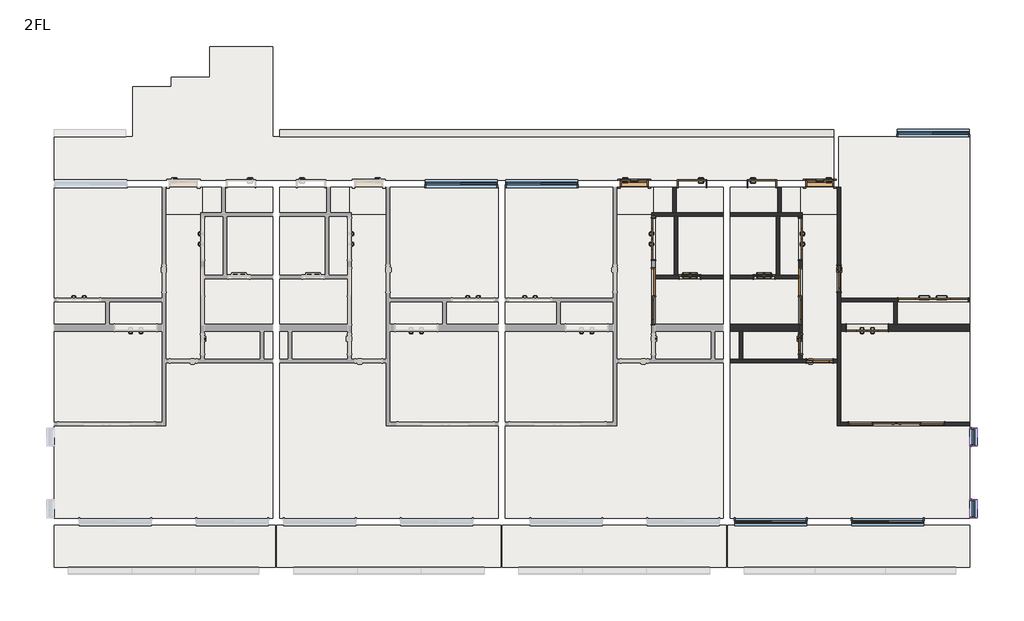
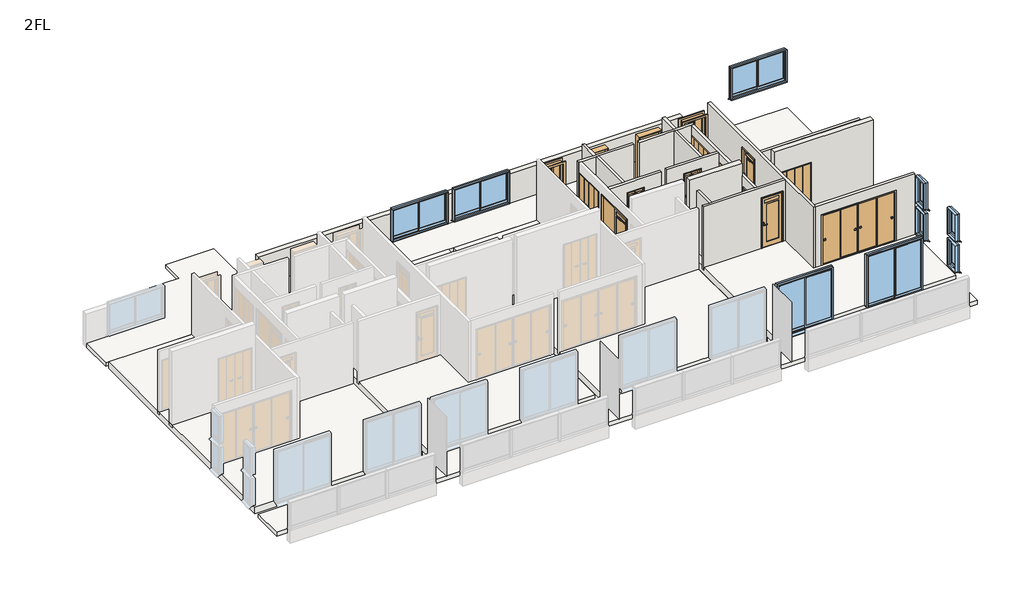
# One storey, part 3 of 3: 18 walls, 16 doors, 14 slabs, 9 windows.
"""IFC4 building model written with IfcOpenShell, lengths in millimetres."""

from ifc_helpers import new_model, si_unit, frame, origin, place, context, project, spatial, polyline, outline, extrude, faceted_brep, transform, mapped, element, save
from components import door_800x2000_a7d1584b, door_800x2000_010bfebf, w1200h2000_6a144d60, w1200h2000_99d19fb3, w1200h2000_ebe1d490, w1600h2000_4c3c234a, w1600h2000_ca690e72, w2000h2000_5dbb6d6a, w2800h2000_04aa64cd, w600h2000_6a266bef, w600h2000_94bb9c3c, w600h2000_8ea70a65, w800h2000_1d97c4d4, w800h2000_13e9f519, w800h2000_ccb03061, w800h2000_0ab7d42c, window_2000x1200_fc91d1cf, window_2000x2000_f1ff98da, window_450x1000_1cddc73c

model = new_model("IFC4")

# Units and contexts
model_context = context("Model", 3, world=origin())
ifc_project = project(units=[si_unit("LENGTHUNIT", "METRE", prefix="MILLI")], contexts=[model_context])

# Site, building, storey
site = spatial("IfcSite", under=ifc_project)
building = spatial("IfcBuilding", under=site)
storey = spatial("IfcBuildingStorey", under=building, Name="2FL", Elevation=4000.0)

# Doors
placement = place(None, origin())
door_800x2000_shape = door_800x2000_a7d1584b(model_context)
element("IfcDoor", 1, ObjectType="片開き3 : 800x2000", at=placement, inside=storey, context=model_context, shape_type="MappedRepresentation", body=[
    mapped(door_800x2000_shape, transform((5521.2812754, -5700.1171638, 4000.0), x_axis=(1.0, 0.0, 0.0), y_axis=(0.0, 1.0, 0.0), z_axis=(0.0, 0.0, 1.0))),
])
door_800x2000_2_shape = door_800x2000_010bfebf(model_context)
element("IfcDoor", 2, ObjectType="片開き3 : 800x2000", at=placement, inside=storey, context=model_context, shape_type="MappedRepresentation", body=[
    mapped(door_800x2000_2_shape, transform((10821.2812754, -5700.1171638, 4000.0), x_axis=(-1.0, 0.0, 0.0), y_axis=(0.0, -1.0, 0.0), z_axis=(0.0, 0.0, 1.0))),
])
w1200h2000_shape = w1200h2000_6a144d60(model_context)
element("IfcDoor", 3, ObjectType="木製折戸 : w1200h2000", at=placement, inside=storey, context=model_context, shape_type="MappedRepresentation", body=[
    mapped(w1200h2000_shape, transform((6071.2812754, -7280.1171638, 4100.0), x_axis=(0.0, 1.0, 0.0), y_axis=(-1.0, 0.0, 0.0), z_axis=(0.0, 0.0, 1.0))),
])
w1200h2000_2_shape = w1200h2000_99d19fb3(model_context)
element("IfcDoor", 4, ObjectType="木製折戸 : w1200h2000", at=placement, inside=storey, context=model_context, shape_type="MappedRepresentation", body=[
    mapped(w1200h2000_2_shape, transform((10271.2812754, -7280.1171638, 4100.0), x_axis=(0.0, 1.0, 0.0), y_axis=(-1.0, 0.0, 0.0), z_axis=(0.0, 0.0, 1.0))),
])
w1200h2000_3_shape = w1200h2000_ebe1d490(model_context)
element("IfcDoor", 5, ObjectType="木製折戸 : w1200h2000", at=placement, inside=storey, context=model_context, shape_type="MappedRepresentation", body=[
    mapped(w1200h2000_3_shape, transform((12183.7812754, -9820.1171638, 4100.0), x_axis=(1.0, 0.0, 0.0), y_axis=(0.0, 1.0, 0.0), z_axis=(0.0, 0.0, 1.0))),
])
w1600h2000_shape = w1600h2000_4c3c234a(model_context)
element("IfcDoor", 6, ObjectType="片引戸CL2017 : w1600h2000", at=placement, inside=storey, context=model_context, shape_type="MappedRepresentation", body=[
    mapped(w1600h2000_shape, transform((6071.2812754, -8920.1171638, 4100.0), x_axis=(0.0, -1.0, 0.0), y_axis=(1.0, 0.0, 0.0), z_axis=(0.0, 0.0, 1.0))),
])
w1600h2000_2_shape = w1600h2000_ca690e72(model_context)
element("IfcDoor", 7, ObjectType="片引戸CL2017 : w1600h2000", at=placement, inside=storey, context=model_context, shape_type="MappedRepresentation", body=[
    mapped(w1600h2000_2_shape, transform((10271.2812754, -8920.1171638, 4100.0), x_axis=(0.0, -1.0, 0.0), y_axis=(1.0, 0.0, 0.0), z_axis=(0.0, 0.0, 1.0))),
])
w2000h2000_shape = w2000h2000_5dbb6d6a(model_context)
element("IfcDoor", 8, ObjectType="木製折戸 : w2000h2000", at=placement, inside=storey, context=model_context, shape_type="MappedRepresentation", body=[
    mapped(w2000h2000_shape, transform((14066.2812754, -9020.1171638, 4100.0), x_axis=(-1.0, 0.0, 0.0), y_axis=(0.0, -1.0, 0.0), z_axis=(0.0, 0.0, 1.0))),
])
w2800h2000_shape = w2800h2000_04aa64cd(model_context)
element("IfcDoor", 9, ObjectType="引違い 4 枚 2 溝_襖 : w2800h2000", at=placement, inside=storey, context=model_context, shape_type="MappedRepresentation", body=[
    mapped(w2800h2000_shape, transform((13026.8167793, -12570.1171638, 4100.0), x_axis=(1.0, 0.0, 0.0), y_axis=(0.0, 1.0, 0.0), z_axis=(0.0, 0.0, 1.0))),
])
w600h2000_shape = w600h2000_6a266bef(model_context)
element("IfcDoor", 10, ObjectType="浴室折戸 : w600h2000", at=placement, inside=storey, context=model_context, shape_type="MappedRepresentation", body=[
    mapped(w600h2000_shape, transform((7111.2812754, -8370.1171638, 4100.0), x_axis=(1.0, 0.0, 0.0), y_axis=(0.0, 1.0, 0.0), z_axis=(0.0, 0.0, 1.0))),
])
w600h2000_2_shape = w600h2000_94bb9c3c(model_context)
element("IfcDoor", 11, ObjectType="浴室折戸 : w600h2000", at=placement, inside=storey, context=model_context, shape_type="MappedRepresentation", body=[
    mapped(w600h2000_2_shape, transform((9231.2812754, -8370.1171638, 4100.0), x_axis=(-1.0, 0.0, 0.0), y_axis=(0.0, -1.0, 0.0), z_axis=(0.0, 0.0, 1.0))),
])
w600h2000_3_shape = w600h2000_8ea70a65(model_context)
element("IfcDoor", 12, ObjectType="片開戸CL2058 : w600h2000", at=placement, inside=storey, context=model_context, shape_type="MappedRepresentation", body=[
    mapped(w600h2000_3_shape, transform((10271.2812754, -10295.1171638, 4100.0), x_axis=(0.0, -1.0, 0.0), y_axis=(1.0, 0.0, 0.0), z_axis=(0.0, 0.0, 1.0))),
])
w800h2000_shape = w800h2000_1d97c4d4(model_context)
element("IfcDoor", 13, ObjectType="片開 : w800h2000", at=placement, inside=storey, context=model_context, shape_type="MappedRepresentation", body=[
    mapped(w800h2000_shape, transform((7171.2812754, -5700.1171638, 4000.0), x_axis=(-1.0, 0.0, 0.0), y_axis=(0.0, -1.0, 0.0), z_axis=(0.0, 0.0, 1.0))),
])
w800h2000_2_shape = w800h2000_13e9f519(model_context)
element("IfcDoor", 14, ObjectType="片開戸CL2058 : w800h2000", at=placement, inside=storey, context=model_context, shape_type="MappedRepresentation", body=[
    mapped(w800h2000_2_shape, transform((10821.2812754, -10770.1171638, 4100.0), x_axis=(1.0, 0.0, 0.0), y_axis=(0.0, 1.0, 0.0), z_axis=(0.0, 0.0, 1.0))),
])
w800h2000_3_shape = w800h2000_ccb03061(model_context)
element("IfcDoor", 15, ObjectType="片開戸CL2058 : w800h2000", at=placement, inside=storey, context=model_context, shape_type="MappedRepresentation", body=[
    mapped(w800h2000_3_shape, transform((11371.2812754, -8420.1171638, 4100.0), x_axis=(0.0, -1.0, 0.0), y_axis=(1.0, 0.0, 0.0), z_axis=(0.0, 0.0, 1.0))),
])
w800h2000_4_shape = w800h2000_0ab7d42c(model_context)
element("IfcDoor", 16, ObjectType="片開 : w800h2000", at=placement, inside=storey, context=model_context, shape_type="MappedRepresentation", body=[
    mapped(w800h2000_4_shape, transform((9171.2812754, -5700.1171638, 4000.0), x_axis=(1.0, 0.0, 0.0), y_axis=(0.0, 1.0, 0.0), z_axis=(0.0, 0.0, 1.0))),
])

# Slabs
element("IfcSlab", 17, ObjectType="RC150＋100", at=placement, inside=storey, context=model_context, shape_type="SweptSolid", body=[
    extrude(outline(polyline([(-4828.7187246, -15270.1171638), (-11078.7187246, -15270.1171638), (-11078.7187246, -5800.1171638), (-7928.7187246, -5800.1171638), (-7928.7187246, -6580.1171638), (-6828.7187246, -6580.1171638), (-6828.7187246, -5800.1171638), (-4828.7187246, -5800.1171638), (-4828.7187246, -6580.1171638), (-6188.7187246, -6580.1171638), (-6188.7187246, -8370.1171638), (-4828.7187246, -8370.1171638), (-4828.7187246, -15270.1171638)])), frame((0.0, 0.0, 3850.0), z_axis=(0.0, 0.0, 1.0), x_axis=(1.0, 0.0, 0.0)), (0.0, 0.0, 1.0), 250.0),
])
element("IfcSlab", 18, ObjectType="RC150＋100", at=placement, inside=storey, context=model_context, shape_type="SweptSolid", body=[
    extrude(outline(polyline([(-4628.7187246, -15270.1171638), (-4628.7187246, -8370.1171638), (-3268.7187246, -8370.1171638), (-3268.7187246, -6580.1171638), (-4628.7187246, -6580.1171638), (-4628.7187246, -5800.1171638), (-2628.7187246, -5800.1171638), (-2628.7187246, -6580.1171638), (-1528.7187246, -6580.1171638), (-1528.7187246, -5800.1171638), (1621.2812754, -5800.1171638), (1621.2812754, -15270.1171638), (-4628.7187246, -15270.1171638)])), frame((0.0, 0.0, 3850.0), z_axis=(0.0, 0.0, 1.0), x_axis=(1.0, 0.0, 0.0)), (0.0, 0.0, 1.0), 250.0),
])
element("IfcSlab", 19, ObjectType="RC150＋100", at=placement, inside=storey, context=model_context, shape_type="SweptSolid", body=[
    extrude(outline(polyline([(8071.2812754, -15270.1171638), (1821.2812754, -15270.1171638), (1821.2812754, -5800.1171638), (4971.2812754, -5800.1171638), (4971.2812754, -6580.1171638), (6071.2812754, -6580.1171638), (6071.2812754, -5800.1171638), (8071.2812754, -5800.1171638), (8071.2812754, -6580.1171638), (6711.2812754, -6580.1171638), (6711.2812754, -8370.1171638), (8071.2812754, -8370.1171638), (8071.2812754, -15270.1171638)])), frame((0.0, 0.0, 3850.0), z_axis=(0.0, 0.0, 1.0), x_axis=(1.0, 0.0, 0.0)), (0.0, 0.0, 1.0), 250.0),
])
element("IfcSlab", 20, ObjectType="RC150＋100", at=placement, inside=storey, context=model_context, shape_type="SweptSolid", body=[
    extrude(outline(polyline([(8271.2812754, -15270.1171638), (8271.2812754, -8370.1171638), (9631.2812754, -8370.1171638), (9631.2812754, -6580.1171638), (8271.2812754, -6580.1171638), (8271.2812754, -5800.1171638), (10271.2812754, -5800.1171638), (10271.2812754, -6580.1171638), (11371.2812754, -6580.1171638), (11371.2812754, -4350.1171638), (15121.2812754, -4350.1171638), (15121.2812754, -15270.1171638), (8271.2812754, -15270.1171638)])), frame((0.0, 0.0, 3850.0), z_axis=(0.0, 0.0, 1.0), x_axis=(1.0, 0.0, 0.0)), (0.0, 0.0, 1.0), 250.0),
])
element("IfcSlab", 21, ObjectType="RC150", at=placement, inside=storey, context=model_context, shape_type="SweptSolid", body=[
    extrude(outline(polyline([(-4828.7187246, -8370.1171638), (-6188.7187246, -8370.1171638), (-6188.7187246, -6580.1171638), (-4828.7187246, -6580.1171638), (-4828.7187246, -8370.1171638)])), frame((0.0, 0.0, 3850.0), z_axis=(0.0, 0.0, 1.0), x_axis=(1.0, 0.0, 0.0)), (0.0, 0.0, 1.0), 150.0),
])
element("IfcSlab", 22, ObjectType="RC150", at=placement, inside=storey, context=model_context, shape_type="SweptSolid", body=[
    extrude(outline(polyline([(-6828.7187246, -6580.1171638), (-7928.7187246, -6580.1171638), (-7928.7187246, -5800.1171638), (-6828.7187246, -5800.1171638), (-6828.7187246, -6580.1171638)])), frame((0.0, 0.0, 3800.0), z_axis=(0.0, 0.0, 1.0), x_axis=(1.0, 0.0, 0.0)), (0.0, 0.0, 1.0), 150.0),
])
element("IfcSlab", 23, ObjectType="RC150", at=placement, inside=storey, context=model_context, shape_type="SweptSolid", body=[
    extrude(outline(polyline([(-4628.7187246, -8370.1171638), (-4628.7187246, -6580.1171638), (-3268.7187246, -6580.1171638), (-3268.7187246, -8370.1171638), (-4628.7187246, -8370.1171638)])), frame((0.0, 0.0, 3850.0), z_axis=(0.0, 0.0, 1.0), x_axis=(1.0, 0.0, 0.0)), (0.0, 0.0, 1.0), 150.0),
])
element("IfcSlab", 24, ObjectType="RC150", at=placement, inside=storey, context=model_context, shape_type="SweptSolid", body=[
    extrude(outline(polyline([(-2628.7187246, -6580.1171638), (-2628.7187246, -5800.1171638), (-1528.7187246, -5800.1171638), (-1528.7187246, -6580.1171638), (-2628.7187246, -6580.1171638)])), frame((0.0, 0.0, 3800.0), z_axis=(0.0, 0.0, 1.0), x_axis=(1.0, 0.0, 0.0)), (0.0, 0.0, 1.0), 150.0),
])
element("IfcSlab", 25, ObjectType="RC150", at=placement, inside=storey, context=model_context, shape_type="SweptSolid", body=[
    extrude(outline(polyline([(8071.2812754, -8370.1171638), (6711.2812754, -8370.1171638), (6711.2812754, -6580.1171638), (8071.2812754, -6580.1171638), (8071.2812754, -8370.1171638)])), frame((0.0, 0.0, 3850.0), z_axis=(0.0, 0.0, 1.0), x_axis=(1.0, 0.0, 0.0)), (0.0, 0.0, 1.0), 150.0),
])
element("IfcSlab", 26, ObjectType="RC150", at=placement, inside=storey, context=model_context, shape_type="SweptSolid", body=[
    extrude(outline(polyline([(6071.2812754, -6580.1171638), (4971.2812754, -6580.1171638), (4971.2812754, -5800.1171638), (6071.2812754, -5800.1171638), (6071.2812754, -6580.1171638)])), frame((0.0, 0.0, 3800.0), z_axis=(0.0, 0.0, 1.0), x_axis=(1.0, 0.0, 0.0)), (0.0, 0.0, 1.0), 150.0),
])
element("IfcSlab", 27, ObjectType="RC150", at=placement, inside=storey, context=model_context, shape_type="SweptSolid", body=[
    extrude(outline(polyline([(8271.2812754, -8370.1171638), (8271.2812754, -6580.1171638), (9631.2812754, -6580.1171638), (9631.2812754, -8370.1171638), (8271.2812754, -8370.1171638)])), frame((0.0, 0.0, 3850.0), z_axis=(0.0, 0.0, 1.0), x_axis=(1.0, 0.0, 0.0)), (0.0, 0.0, 1.0), 150.0),
])
element("IfcSlab", 28, ObjectType="RC150", at=placement, inside=storey, context=model_context, shape_type="SweptSolid", body=[
    extrude(outline(polyline([(10271.2812754, -6580.1171638), (10271.2812754, -5800.1171638), (11371.2812754, -5800.1171638), (11371.2812754, -6580.1171638), (10271.2812754, -6580.1171638)])), frame((0.0, 0.0, 3800.0), z_axis=(0.0, 0.0, 1.0), x_axis=(1.0, 0.0, 0.0)), (0.0, 0.0, 1.0), 150.0),
])
element("IfcSlab", 29, ObjectType="RC150", at=placement, inside=storey, context=model_context, shape_type="SweptSolid", body=[
    extrude(outline(polyline([(-8828.7187246, -4350.1171638), (-8828.7187246, -2920.1171638), (-7728.7187246, -2920.1171638), (-7728.7187246, -2660.1171638), (-6628.7187246, -2660.1171638), (-6628.7187246, -1775.1171638), (-4828.7187246, -1775.1171638), (-4828.7187246, -4350.1171638), (11221.2812754, -4350.1171638), (11221.2812754, -5600.1171638), (-11078.7187246, -5600.1171638), (-11078.7187246, -4350.1171638), (-8828.7187246, -4350.1171638)])), frame((0.0, 0.0, 3800.0), z_axis=(0.0, 0.0, 1.0), x_axis=(1.0, 0.0, 0.0)), (0.0, 0.0, 1.0), 150.0),
])
element("IfcSlab", 30, ObjectType="RC150", at=placement, inside=storey, context=model_context, shape_type="SweptSolid", body=[
    extrude(outline(polyline([(15121.2812754, -15470.1171638), (15121.2812754, -16670.1171638), (-11078.7187246, -16670.1171638), (-11078.7187246, -15470.1171638), (15121.2812754, -15470.1171638)])), frame((0.0, 0.0, 3800.0), z_axis=(0.0, 0.0, 1.0), x_axis=(1.0, 0.0, 0.0)), (0.0, 0.0, 1.0), 150.0),
])

# Walls
element("IfcWall", 31, ObjectType="(R)RC200", at=placement, inside=storey, context=model_context, shape_type="Brep", body=[
    faceted_brep([(15121.2812754, -9720.1171638, 4000.0), (13046.2812754, -9720.1171638, 4000.0), (12946.2812754, -9720.1171638, 4000.0), (11421.2812754, -9720.1171638, 4000.0), (11421.2812754, -9720.1171638, 7000.0), (15121.2812754, -9720.1171638, 7000.0), (12803.7812754, -9720.1171638, 6120.0), (11563.7812754, -9720.1171638, 6120.0), (11563.7812754, -9720.1171638, 4100.0), (12803.7812754, -9720.1171638, 4100.0), (15121.2812754, -9920.1171638, 4000.0), (15121.2812754, -9920.1171638, 7000.0), (11421.2812754, -9920.1171638, 7000.0), (11421.2812754, -9920.1171638, 4000.0), (12803.7812754, -9920.1171638, 6120.0), (12803.7812754, -9920.1171638, 4100.0), (11563.7812754, -9920.1171638, 4100.0), (11563.7812754, -9920.1171638, 6120.0)], [[[0, 1, 2, 3, 4, 5], [6, 7, 8, 9]], [[10, 11, 12, 13], [14, 15, 16, 17]], [[3, 2, 1, 0, 10, 13]], [[5, 4, 12, 11]], [[4, 3, 13, 12]], [[15, 14, 6, 9]], [[16, 15, 9, 8]], [[17, 16, 8, 7]], [[14, 17, 7, 6]], [[0, 5, 11, 10]]]),
])
element("IfcWall", 32, ObjectType="(R)RC200", at=placement, inside=storey, context=model_context, shape_type="Brep", body=[
    faceted_brep([(10221.2812754, -9720.1171638, 4000.0), (8271.2812754, -9720.1171638, 4000.0), (8271.2812754, -9720.1171638, 7000.0), (10221.2812754, -9720.1171638, 7000.0), (10221.2812754, -9920.1171638, 4000.0), (10221.2812754, -9920.1171638, 7000.0), (8271.2812754, -9920.1171638, 7000.0), (8271.2812754, -9920.1171638, 4000.0), (8521.2812754, -9920.1171638, 4000.0), (8621.2812754, -9920.1171638, 4000.0)], [[[0, 1, 2, 3]], [[4, 5, 6, 7, 8, 9]], [[1, 0, 4, 9, 8, 7]], [[3, 2, 6, 5]], [[0, 3, 5, 4]], [[2, 1, 7, 6]]]),
])
element("IfcWall", 33, ObjectType="(R)RC200", at=placement, inside=storey, context=model_context, shape_type="Brep", body=[
    faceted_brep([(-4628.7187246, -4350.1171638, 5100.0), (-4628.7187246, -4350.1171638, 3800.0), (-1628.7187246, -4350.1171638, 3800.0), (11221.2812754, -4350.1171638, 3800.0), (11221.2812754, -4350.1171638, 5100.0), (-4628.7187246, -4150.1171638, 3800.0), (-4628.7187246, -4150.1171638, 5100.0), (11221.2812754, -4150.1171638, 5100.0), (11221.2812754, -4150.1171638, 3800.0), (-1628.7187246, -4150.1171638, 3800.0)], [[[0, 1, 2, 3, 4]], [[5, 6, 7, 8, 9]], [[3, 2, 1, 5, 9, 8]], [[0, 4, 7, 6]], [[4, 3, 8, 7]], [[0, 6, 5, 1]]]),
])
element("IfcWall", 34, ObjectType="(L1)LGS100", at=placement, inside=storey, context=model_context, shape_type="Brep", body=[
    faceted_brep([(6121.2812754, -8420.1171638, 4000.0), (8071.2812754, -8420.1171638, 4000.0), (8071.2812754, -8420.1171638, 6500.0), (6121.2812754, -8420.1171638, 6500.0), (7431.2812754, -8420.1171638, 6120.0), (7431.2812754, -8420.1171638, 4100.0), (6791.2812754, -8420.1171638, 4100.0), (6791.2812754, -8420.1171638, 6120.0), (6121.2812754, -8320.1171638, 4000.0), (6121.2812754, -8320.1171638, 6500.0), (6661.2812754, -8320.1171638, 6500.0), (6761.2812754, -8320.1171638, 6500.0), (8071.2812754, -8320.1171638, 6500.0), (8071.2812754, -8320.1171638, 4000.0), (6761.2812754, -8320.1171638, 4000.0), (6661.2812754, -8320.1171638, 4000.0), (7431.2812754, -8320.1171638, 6120.0), (6791.2812754, -8320.1171638, 6120.0), (6791.2812754, -8320.1171638, 4100.0), (7431.2812754, -8320.1171638, 4100.0)], [[[0, 1, 2, 3], [4, 5, 6, 7]], [[8, 9, 10, 11, 12, 13, 14, 15], [16, 17, 18, 19]], [[1, 0, 8, 15, 14, 13]], [[3, 2, 12, 11, 10, 9]], [[0, 3, 9, 8]], [[5, 4, 16, 19]], [[6, 5, 19, 18]], [[7, 6, 18, 17]], [[4, 7, 17, 16]], [[2, 1, 13, 12]]]),
])
element("IfcWall", 35, ObjectType="(L1)LGS100", at=placement, inside=storey, context=model_context, shape_type="Brep", body=[
    faceted_brep([(6021.2812754, -6630.1171638, 4000.0), (6121.2812754, -6630.1171638, 4000.0), (6661.2812754, -6630.1171638, 4000.0), (6761.2812754, -6630.1171638, 4000.0), (8071.2812754, -6630.1171638, 4000.0), (8071.2812754, -6630.1171638, 6500.0), (6761.2812754, -6630.1171638, 6500.0), (6661.2812754, -6630.1171638, 6500.0), (6121.2812754, -6630.1171638, 6500.0), (6021.2812754, -6630.1171638, 6500.0), (6021.2812754, -6530.1171638, 4000.0), (6021.2812754, -6530.1171638, 6500.0), (6621.2812754, -6530.1171638, 6500.0), (6721.2812754, -6530.1171638, 6500.0), (8071.2812754, -6530.1171638, 6500.0), (8071.2812754, -6530.1171638, 4000.0), (6721.2812754, -6530.1171638, 4000.0), (6621.2812754, -6530.1171638, 4000.0)], [[[0, 1, 2, 3, 4, 5, 6, 7, 8, 9]], [[10, 11, 12, 13, 14, 15, 16, 17]], [[4, 3, 2, 1, 0, 10, 17, 16, 15]], [[9, 8, 7, 6, 5, 14, 13, 12, 11]], [[0, 9, 11, 10]], [[5, 4, 15, 14]]]),
])
element("IfcWall", 36, ObjectType="(L1)LGS100", at=placement, inside=storey, context=model_context, shape_type="SweptSolid", body=[
    extrude(outline(polyline([(6721.2812754, -5800.1171638), (6721.2812754, -6530.1171638), (6621.2812754, -6530.1171638), (6621.2812754, -5800.1171638), (6721.2812754, -5800.1171638)])), frame((0.0, 0.0, 4000.0), z_axis=(0.0, 0.0, 1.0), x_axis=(1.0, 0.0, 0.0)), (0.0, 0.0, 1.0), 2500.0),
])
element("IfcWall", 37, ObjectType="(L1)LGS100", at=placement, inside=storey, context=model_context, shape_type="SweptSolid", body=[
    extrude(outline(polyline([(6761.2812754, -6630.1171638), (6761.2812754, -8320.1171638), (6661.2812754, -8320.1171638), (6661.2812754, -6630.1171638), (6761.2812754, -6630.1171638)])), frame((0.0, 0.0, 4000.0), z_axis=(0.0, 0.0, 1.0), x_axis=(1.0, 0.0, 0.0)), (0.0, 0.0, 1.0), 2500.0),
])
element("IfcWall", 38, ObjectType="(L1)LGS100", at=placement, inside=storey, context=model_context, shape_type="Brep", body=[
    faceted_brep([(15121.2812754, -8970.1171638, 4000.0), (11421.2812754, -8970.1171638, 4000.0), (11421.2812754, -8970.1171638, 6500.0), (15121.2812754, -8970.1171638, 6500.0), (13046.2812754, -8970.1171638, 6120.0), (13046.2812754, -8970.1171638, 4100.0), (15086.2812754, -8970.1171638, 4100.0), (15086.2812754, -8970.1171638, 6120.0), (11421.2812754, -9070.1171638, 4000.0), (12946.2812754, -9070.1171638, 4000.0), (13046.2812754, -9070.1171638, 4000.0), (15121.2812754, -9070.1171638, 4000.0), (15121.2812754, -9070.1171638, 6500.0), (13046.2812754, -9070.1171638, 6500.0), (12946.2812754, -9070.1171638, 6500.0), (11421.2812754, -9070.1171638, 6500.0), (13046.2812754, -9070.1171638, 4100.0), (13046.2812754, -9070.1171638, 6120.0), (15086.2812754, -9070.1171638, 6120.0), (15086.2812754, -9070.1171638, 4100.0)], [[[0, 1, 2, 3], [4, 5, 6, 7]], [[8, 9, 10, 11, 12, 13, 14, 15], [16, 17, 18, 19]], [[1, 0, 11, 10, 9, 8]], [[3, 2, 15, 14, 13, 12]], [[2, 1, 8, 15]], [[4, 17, 16, 5]], [[5, 16, 19, 6]], [[17, 4, 7, 18]], [[18, 7, 6, 19]], [[0, 3, 12, 11]]]),
])
element("IfcWall", 39, ObjectType="(L1)LGS100", at=placement, inside=storey, context=model_context, shape_type="Brep", body=[
    faceted_brep([(13046.2812754, -9720.1171638, 4000.0), (13046.2812754, -9070.1171638, 4000.0), (13046.2812754, -9070.1171638, 4100.0), (13046.2812754, -9070.1171638, 6120.0), (13046.2812754, -9070.1171638, 6500.0), (13046.2812754, -9720.1171638, 6500.0), (12946.2812754, -9720.1171638, 4000.0), (12946.2812754, -9720.1171638, 6500.0), (12946.2812754, -9070.1171638, 6500.0), (12946.2812754, -9070.1171638, 4000.0)], [[[0, 1, 2, 3, 4, 5]], [[6, 7, 8, 9]], [[1, 0, 6, 9]], [[5, 4, 8, 7]], [[0, 5, 7, 6]], [[4, 3, 2, 1, 9, 8]]]),
])
element("IfcWall", 40, ObjectType="(L1)LGS100", at=placement, inside=storey, context=model_context, shape_type="Brep", body=[
    faceted_brep([(11421.2812754, -12620.1171638, 4000.0), (11421.2812754, -12520.1171638, 4000.0), (11421.2812754, -9920.1171638, 4000.0), (11421.2812754, -9720.1171638, 4000.0), (11421.2812754, -9070.1171638, 4000.0), (11421.2812754, -8970.1171638, 4000.0), (11421.2812754, -5800.1171638, 4000.0), (11421.2812754, -5800.1171638, 6500.0), (11421.2812754, -8970.1171638, 6500.0), (11421.2812754, -9070.1171638, 6500.0), (11421.2812754, -12520.1171638, 6500.0), (11421.2812754, -12620.1171638, 6500.0), (11421.2812754, -8820.1171638, 4100.0), (11421.2812754, -8820.1171638, 6100.0), (11421.2812754, -8020.1171638, 6100.0), (11421.2812754, -8020.1171638, 4100.0), (11321.2812754, -12620.1171638, 4000.0), (11321.2812754, -12620.1171638, 6500.0), (11321.2812754, -10820.1171638, 6500.0), (11321.2812754, -10720.1171638, 6500.0), (11321.2812754, -5800.1171638, 6500.0), (11321.2812754, -5800.1171638, 4000.0), (11321.2812754, -10720.1171638, 4000.0), (11321.2812754, -10820.1171638, 4000.0), (11321.2812754, -8820.1171638, 4100.0), (11321.2812754, -8020.1171638, 4100.0), (11321.2812754, -8020.1171638, 6100.0), (11321.2812754, -8820.1171638, 6100.0)], [[[0, 1, 2, 3, 4, 5, 6, 7, 8, 9, 10, 11], [12, 13, 14, 15]], [[16, 17, 18, 19, 20, 21, 22, 23], [24, 25, 26, 27]], [[6, 5, 4, 3, 2, 1, 0, 16, 23, 22, 21]], [[11, 10, 9, 8, 7, 20, 19, 18, 17]], [[0, 11, 17, 16]], [[13, 12, 24, 27]], [[14, 13, 27, 26]], [[15, 14, 26, 25]], [[12, 15, 25, 24]], [[7, 6, 21, 20]]]),
])
element("IfcWall", 41, ObjectType="(L1)LGS100", at=placement, inside=storey, context=model_context, shape_type="Brep", body=[
    faceted_brep([(10221.2812754, -8320.1171638, 4000.0), (9681.2812754, -8320.1171638, 4000.0), (9581.2812754, -8320.1171638, 4000.0), (8271.2812754, -8320.1171638, 4000.0), (8271.2812754, -8320.1171638, 6500.0), (9581.2812754, -8320.1171638, 6500.0), (9681.2812754, -8320.1171638, 6500.0), (10221.2812754, -8320.1171638, 6500.0), (8911.2812754, -8320.1171638, 6120.0), (8911.2812754, -8320.1171638, 4100.0), (9551.2812754, -8320.1171638, 4100.0), (9551.2812754, -8320.1171638, 6120.0), (10221.2812754, -8420.1171638, 4000.0), (10221.2812754, -8420.1171638, 6500.0), (8271.2812754, -8420.1171638, 6500.0), (8271.2812754, -8420.1171638, 4000.0), (8911.2812754, -8420.1171638, 6120.0), (9551.2812754, -8420.1171638, 6120.0), (9551.2812754, -8420.1171638, 4100.0), (8911.2812754, -8420.1171638, 4100.0)], [[[0, 1, 2, 3, 4, 5, 6, 7], [8, 9, 10, 11]], [[12, 13, 14, 15], [16, 17, 18, 19]], [[3, 2, 1, 0, 12, 15]], [[7, 6, 5, 4, 14, 13]], [[0, 7, 13, 12]], [[9, 8, 16, 19]], [[10, 9, 19, 18]], [[11, 10, 18, 17]], [[8, 11, 17, 16]], [[4, 3, 15, 14]]]),
])
element("IfcWall", 42, ObjectType="(L1)LGS100", at=placement, inside=storey, context=model_context, shape_type="Brep", body=[
    faceted_brep([(10321.2812754, -10720.1171638, 4000.0), (10321.2812754, -6630.1171638, 4000.0), (10321.2812754, -6630.1171638, 6500.0), (10321.2812754, -10720.1171638, 6500.0), (10321.2812754, -10595.1171638, 4100.0), (10321.2812754, -10595.1171638, 6100.0), (10321.2812754, -9995.1171638, 6100.0), (10321.2812754, -9995.1171638, 4100.0), (10321.2812754, -6660.1171638, 4100.0), (10321.2812754, -7900.1171638, 4100.0), (10321.2812754, -7900.1171638, 6120.0), (10321.2812754, -6660.1171638, 6120.0), (10321.2812754, -9745.1171638, 4100.0), (10321.2812754, -9745.1171638, 6140.0), (10321.2812754, -8095.1171638, 6140.0), (10321.2812754, -8095.1171638, 4100.0), (10221.2812754, -6630.1171638, 4000.0), (10221.2812754, -8320.1171638, 4000.0), (10221.2812754, -8420.1171638, 4000.0), (10221.2812754, -9720.1171638, 4000.0), (10221.2812754, -9920.1171638, 4000.0), (10221.2812754, -10720.1171638, 4000.0), (10221.2812754, -10720.1171638, 6500.0), (10221.2812754, -8420.1171638, 6500.0), (10221.2812754, -8320.1171638, 6500.0), (10221.2812754, -6630.1171638, 6500.0), (10221.2812754, -10595.1171638, 4100.0), (10221.2812754, -9995.1171638, 4100.0), (10221.2812754, -9995.1171638, 6100.0), (10221.2812754, -10595.1171638, 6100.0), (10221.2812754, -7900.1171638, 4100.0), (10221.2812754, -6660.1171638, 4100.0), (10221.2812754, -6660.1171638, 6120.0), (10221.2812754, -7900.1171638, 6120.0), (10221.2812754, -9745.1171638, 4100.0), (10221.2812754, -8095.1171638, 4100.0), (10221.2812754, -8095.1171638, 6140.0), (10221.2812754, -9745.1171638, 6140.0)], [[[0, 1, 2, 3], [4, 5, 6, 7], [8, 9, 10, 11], [12, 13, 14, 15]], [[16, 17, 18, 19, 20, 21, 22, 23, 24, 25], [26, 27, 28, 29], [30, 31, 32, 33], [34, 35, 36, 37]], [[1, 0, 21, 20, 19, 18, 17, 16]], [[3, 2, 25, 24, 23, 22]], [[0, 3, 22, 21]], [[2, 1, 16, 25]], [[5, 4, 26, 29]], [[6, 5, 29, 28]], [[7, 6, 28, 27]], [[4, 7, 27, 26]], [[8, 31, 30, 9]], [[9, 30, 33, 10]], [[10, 33, 32, 11]], [[13, 12, 34, 37]], [[14, 13, 37, 36]], [[15, 14, 36, 35]], [[12, 15, 35, 34]], [[31, 8, 11, 32]]]),
])
element("IfcWall", 43, ObjectType="(L1)LGS100", at=placement, inside=storey, context=model_context, shape_type="Brep", body=[
    faceted_brep([(10321.2812754, -6530.1171638, 4000.0), (9721.2812754, -6530.1171638, 4000.0), (9621.2812754, -6530.1171638, 4000.0), (8271.2812754, -6530.1171638, 4000.0), (8271.2812754, -6530.1171638, 6500.0), (9621.2812754, -6530.1171638, 6500.0), (9721.2812754, -6530.1171638, 6500.0), (10321.2812754, -6530.1171638, 6500.0), (10321.2812754, -6630.1171638, 4000.0), (10321.2812754, -6630.1171638, 6500.0), (10221.2812754, -6630.1171638, 6500.0), (9681.2812754, -6630.1171638, 6500.0), (9581.2812754, -6630.1171638, 6500.0), (8271.2812754, -6630.1171638, 6500.0), (8271.2812754, -6630.1171638, 4000.0), (9581.2812754, -6630.1171638, 4000.0), (9681.2812754, -6630.1171638, 4000.0), (10221.2812754, -6630.1171638, 4000.0)], [[[0, 1, 2, 3, 4, 5, 6, 7]], [[8, 9, 10, 11, 12, 13, 14, 15, 16, 17]], [[3, 2, 1, 0, 8, 17, 16, 15, 14]], [[7, 6, 5, 4, 13, 12, 11, 10, 9]], [[0, 7, 9, 8]], [[4, 3, 14, 13]]]),
])
element("IfcWall", 44, ObjectType="(L1)LGS100", at=placement, inside=storey, context=model_context, shape_type="SweptSolid", body=[
    extrude(outline(polyline([(9721.2812754, -5800.1171638), (9721.2812754, -6530.1171638), (9621.2812754, -6530.1171638), (9621.2812754, -5800.1171638), (9721.2812754, -5800.1171638)])), frame((0.0, 0.0, 4000.0), z_axis=(0.0, 0.0, 1.0), x_axis=(1.0, 0.0, 0.0)), (0.0, 0.0, 1.0), 2500.0),
])
element("IfcWall", 45, ObjectType="(L1)LGS100", at=placement, inside=storey, context=model_context, shape_type="SweptSolid", body=[
    extrude(outline(polyline([(9681.2812754, -6630.1171638), (9681.2812754, -8320.1171638), (9581.2812754, -8320.1171638), (9581.2812754, -6630.1171638), (9681.2812754, -6630.1171638)])), frame((0.0, 0.0, 4000.0), z_axis=(0.0, 0.0, 1.0), x_axis=(1.0, 0.0, 0.0)), (0.0, 0.0, 1.0), 2500.0),
])
element("IfcWall", 46, ObjectType="(L1)LGS100", at=placement, inside=storey, context=model_context, shape_type="SweptSolid", body=[
    extrude(outline(polyline([(8621.2812754, -9920.1171638), (8621.2812754, -10720.1171638), (8521.2812754, -10720.1171638), (8521.2812754, -9920.1171638), (8621.2812754, -9920.1171638)])), frame((0.0, 0.0, 4000.0), z_axis=(0.0, 0.0, 1.0), x_axis=(1.0, 0.0, 0.0)), (0.0, 0.0, 1.0), 2500.0),
])
element("IfcWall", 47, ObjectType="(L1)LGS100", at=placement, inside=storey, context=model_context, shape_type="Brep", body=[
    faceted_brep([(11321.2812754, -10720.1171638, 4000.0), (10321.2812754, -10720.1171638, 4000.0), (10221.2812754, -10720.1171638, 4000.0), (8621.2812754, -10720.1171638, 4000.0), (8521.2812754, -10720.1171638, 4000.0), (8271.2812754, -10720.1171638, 4000.0), (8271.2812754, -10720.1171638, 6500.0), (8521.2812754, -10720.1171638, 6500.0), (8621.2812754, -10720.1171638, 6500.0), (10221.2812754, -10720.1171638, 6500.0), (10321.2812754, -10720.1171638, 6500.0), (11321.2812754, -10720.1171638, 6500.0), (11221.2812754, -10720.1171638, 4100.0), (11221.2812754, -10720.1171638, 6100.0), (10421.2812754, -10720.1171638, 6100.0), (10421.2812754, -10720.1171638, 4100.0), (8271.2812754, -10820.1171638, 4000.0), (11321.2812754, -10820.1171638, 4000.0), (11321.2812754, -10820.1171638, 6500.0), (8271.2812754, -10820.1171638, 6500.0), (11221.2812754, -10820.1171638, 6100.0), (11221.2812754, -10820.1171638, 4100.0), (10421.2812754, -10820.1171638, 4100.0), (10421.2812754, -10820.1171638, 6100.0)], [[[0, 1, 2, 3, 4, 5, 6, 7, 8, 9, 10, 11], [12, 13, 14, 15]], [[16, 17, 18, 19], [20, 21, 22, 23]], [[5, 4, 3, 2, 1, 0, 17, 16]], [[11, 10, 9, 8, 7, 6, 19, 18]], [[0, 11, 18, 17]], [[12, 21, 20, 13]], [[13, 20, 23, 14]], [[14, 23, 22, 15]], [[21, 12, 15, 22]], [[6, 5, 16, 19]]]),
])
element("IfcWall", 48, ObjectType="(L1)LGS100", at=placement, inside=storey, context=model_context, shape_type="SweptSolid", body=[
    extrude(outline(polyline([(4000.0, 15121.2812754), (6500.0, 15121.2812754), (6500.0, 11421.2812754), (4000.0, 11421.2812754), (4000.0, 15121.2812754)]), holes=[polyline([(6100.0, 14421.2812754), (4100.0, 14421.2812754), (4100.0, 11621.2812754), (6100.0, 11621.2812754), (6100.0, 14421.2812754)])]), frame((0.0, -12620.1171638, 0.0), z_axis=(0.0, 1.0, 0.0), x_axis=(0.0, 0.0, 1.0)), (0.0, 0.0, 1.0), 100.0),
])

# Windows
window_2000x1200_shape = window_2000x1200_fc91d1cf(model_context)
element("IfcWindow", 49, ObjectType="鋼製_一般枠_引違い-二枚 : 2000x1200", at=placement, inside=storey, context=model_context, shape_type="MappedRepresentation", body=[
    mapped(window_2000x1200_shape, transform((571.2812754, -5700.1171638, 4250.0), x_axis=(1.0, 0.0, 0.0), y_axis=(0.0, 1.0, 0.0), z_axis=(0.0, 0.0, 1.0))),
])
element("IfcWindow", 50, ObjectType="鋼製_一般枠_引違い-二枚 : 2000x1200", at=placement, inside=storey, context=model_context, shape_type="MappedRepresentation", body=[
    mapped(window_2000x1200_shape, transform((2871.2812754, -5700.1171638, 4250.0), x_axis=(1.0, 0.0, 0.0), y_axis=(0.0, 1.0, 0.0), z_axis=(0.0, 0.0, 1.0))),
])
element("IfcWindow", 51, ObjectType="鋼製_一般枠_引違い-二枚 : 2000x1200", at=placement, inside=storey, context=model_context, shape_type="MappedRepresentation", body=[
    mapped(window_2000x1200_shape, transform((14071.2812754, -4250.1171638, 4250.0), x_axis=(1.0, 0.0, 0.0), y_axis=(0.0, 1.0, 0.0), z_axis=(0.0, 0.0, 1.0))),
])
window_2000x2000_shape = window_2000x2000_f1ff98da(model_context)
element("IfcWindow", 52, ObjectType="鋼製_一般枠_引違い-二枚 : 2000x2000", at=placement, inside=storey, context=model_context, shape_type="MappedRepresentation", body=[
    mapped(window_2000x2000_shape, transform((12771.2812754, -15370.1171638, 3200.0), x_axis=(-1.0, 0.0, 0.0), y_axis=(0.0, -1.0, 0.0), z_axis=(0.0, 0.0, 1.0))),
])
element("IfcWindow", 53, ObjectType="鋼製_一般枠_引違い-二枚 : 2000x2000", at=placement, inside=storey, context=model_context, shape_type="MappedRepresentation", body=[
    mapped(window_2000x2000_shape, transform((9421.2812754, -15370.1171638, 3200.0), x_axis=(-1.0, 0.0, 0.0), y_axis=(0.0, -1.0, 0.0), z_axis=(0.0, 0.0, 1.0))),
])
window_450x1000_shape = window_450x1000_1cddc73c(model_context)
element("IfcWindow", 54, ObjectType="鋼製_一般枠_嵌殺し : 450x1000", at=placement, inside=storey, context=model_context, shape_type="MappedRepresentation", body=[
    mapped(window_450x1000_shape, transform((15221.2812754, -14995.1171638, 3010.0), x_axis=(0.0, 1.0, 0.0), y_axis=(-1.0, 0.0, 0.0), z_axis=(0.0, 0.0, 1.0))),
])
element("IfcWindow", 55, ObjectType="鋼製_一般枠_嵌殺し : 450x1000", at=placement, inside=storey, context=model_context, shape_type="MappedRepresentation", body=[
    mapped(window_450x1000_shape, transform((15221.2812754, -12945.1171638, 3010.0), x_axis=(0.0, 1.0, 0.0), y_axis=(-1.0, 0.0, 0.0), z_axis=(0.0, 0.0, 1.0))),
])
element("IfcWindow", 56, ObjectType="鋼製_一般枠_嵌殺し : 450x1000", at=placement, inside=storey, context=model_context, shape_type="MappedRepresentation", body=[
    mapped(window_450x1000_shape, transform((15221.2812754, -14995.1171638, 4230.0), x_axis=(0.0, 1.0, 0.0), y_axis=(-1.0, 0.0, 0.0), z_axis=(0.0, 0.0, 1.0))),
])
element("IfcWindow", 57, ObjectType="鋼製_一般枠_嵌殺し : 450x1000", at=placement, inside=storey, context=model_context, shape_type="MappedRepresentation", body=[
    mapped(window_450x1000_shape, transform((15221.2812754, -12945.1171638, 4230.0), x_axis=(0.0, 1.0, 0.0), y_axis=(-1.0, 0.0, 0.0), z_axis=(0.0, 0.0, 1.0))),
])

save(model, "model.ifc")
